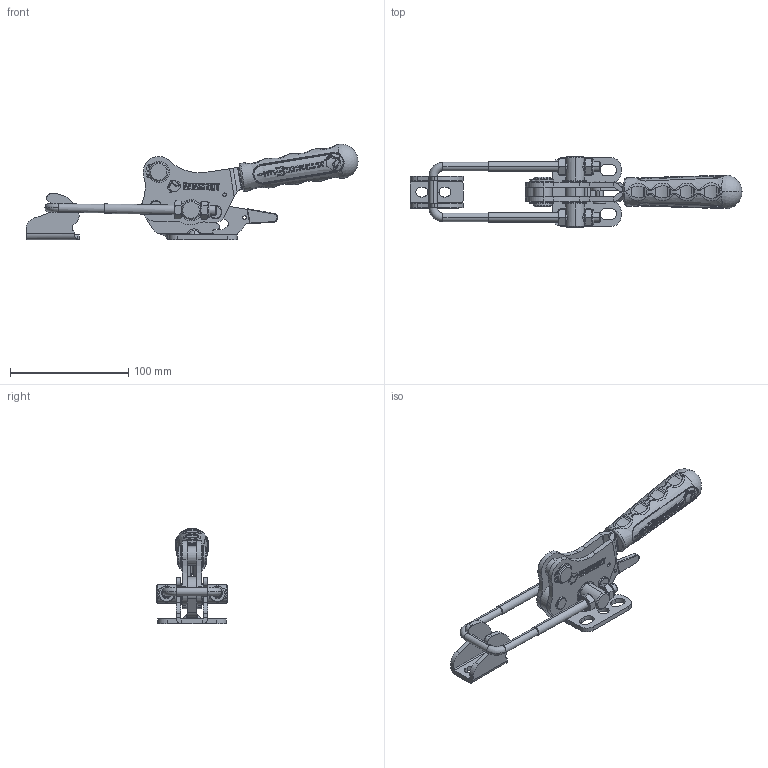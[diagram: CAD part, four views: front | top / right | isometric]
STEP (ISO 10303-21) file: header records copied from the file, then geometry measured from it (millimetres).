
FILE_DESCRIPTION(('STEP AP242'),'1');
FILE_NAME('311-4-l.stp','2023-11-28T13:35:00',('TraceParts'),('TraceParts S.A.'),'Spatial InterOp 3D',' ',' ');
FILE_SCHEMA(('AP242_MANAGED_MODEL_BASED_3D_ENGINEERING_MIM_LF {1 0 10303 442 1 1 4}'));
Length unit declared in the file: millimetre
Products named in the file (1): 311-4-l_1
Bounding box: 280.8 x 60 x 80.69 mm (x, y, z)
Volume: 142575.8 mm3; surface area: 62726.2 mm2
Topology: 10 solids, 17 shells, 2373 faces, 5999 edges, 3581 vertices
Faces by surface type: cylinder 957, bspline 570, plane 525, torus 220, cone 84, sphere 17
Entity records: 108399 total; most frequent: CARTESIAN_POINT 36623, ORIENTED_EDGE 11772, DIRECTION 10390, EDGE_CURVE 5886, AXIS2_PLACEMENT_3D 4225, VERTEX_POINT 3581, EDGE_LOOP 2481, ADVANCED_FACE 2373
